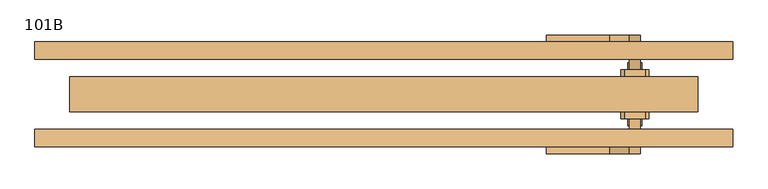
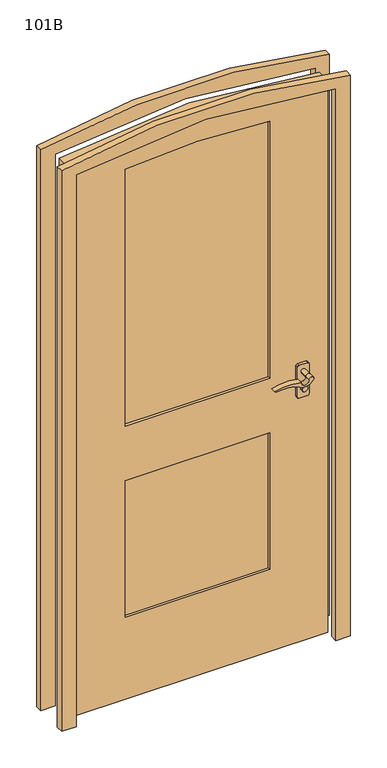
"""IFC4 building model written with IfcOpenShell, lengths in millimetres: door geometry, 单开门 : 101B."""

from ifc_helpers import new_model, si_unit, point, frame, frame_2d, origin, place, context, project, spatial, polyline, circle_curve, trimmed, segment, composite_curve, outline, extrude, source, transform, mapped, element, save
from ifc_brep_helpers import plane_surface, cylinder_surface, revolved_surface, advanced_brep


def door_101b_d0b27b87(model_context):
    return source(origin(), model_context, "Body", "SolidModel", [
        extrude(outline(composite_curve([segment(trimmed(circle_curve(frame_2d((935.0, 360.0)), 10.0), [point((935.0, 350.0))], [point((935.0, 370.0))], False, "CARTESIAN"), True, "CONTINUOUS"), segment(trimmed(circle_curve(frame_2d((935.0, 360.0)), 10.0), [point((935.0, 370.0))], [point((935.0, 350.0))], False, "CARTESIAN"), True, "CONTINUOUS")], self_intersect=False)), frame((0.0, -45.0, 0.0), z_axis=(0.0, 1.0, 0.0), x_axis=(0.0, 0.0, 1.0)), (0.0, 0.0, 1.0), 10.0),
        extrude(outline(composite_curve([segment(trimmed(circle_curve(frame_2d((935.0, 360.0)), 10.0), [point((935.0, 350.0))], [point((935.0, 370.0))], False, "CARTESIAN"), True, "CONTINUOUS"), segment(trimmed(circle_curve(frame_2d((935.0, 360.0)), 10.0), [point((935.0, 370.0))], [point((935.0, 350.0))], False, "CARTESIAN"), True, "CONTINUOUS")], self_intersect=False)), frame((0.0, 35.0, 0.0), z_axis=(0.0, 1.0, 0.0), x_axis=(0.0, 0.0, 1.0)), (0.0, 0.0, 1.0), 10.0),
        extrude(outline(composite_curve([segment(trimmed(circle_curve(frame_2d((995.0, 360.0)), 8.0000034), [point((990.3476652, 366.5081361))], [point((995.0, 351.9999966))], False, "CARTESIAN"), True, "CONTINUOUS"), segment(trimmed(circle_curve(frame_2d((995.0, 338.1440719)), 13.8559247), [point((995.0, 351.9999966))], [point((994.6945887, 324.2915135))], True, "CARTESIAN"), True, "CONTINUOUS"), segment(trimmed(circle_curve(frame_2d((820.9182734, 282.528364)), 178.7242804), [point((994.6945887, 324.2915135))], [point((992.6849677, 233.1464732))], False, "CARTESIAN"), True, "CONTINUOUS"), segment(polyline([(992.6849677, 233.1464732), (989.1494307, 236.6820064)]), True, "CONTINUOUS"), segment(trimmed(circle_curve(frame_2d((876.1214485, 264.8248803)), 116.4789514), [point((989.1494307, 236.6820064))], [point((979.2382475, 318.9938003))], True, "CARTESIAN"), True, "CONTINUOUS"), segment(trimmed(circle_curve(frame_2d((1012.2444372, 336.3324848)), 37.2832209), [point((979.2382475, 318.9938003))], [point((990.3476652, 366.5081361))], False, "CARTESIAN"), True, "CONTINUOUS")], self_intersect=False)), frame((0.0, -85.0, 0.0), z_axis=(0.0, 1.0, 0.0), x_axis=(0.0, 0.0, 1.0)), (0.0, 0.0, 1.0), 20.0),
        extrude(outline(composite_curve([segment(trimmed(circle_curve(frame_2d((995.0000265, 338.1440739)), 13.8559261), [point((995.0000097, 352.0))], [point((994.6945968, 324.2915145))], True, "CARTESIAN"), True, "CONTINUOUS"), segment(trimmed(circle_curve(frame_2d((820.9182829, 282.5283658)), 178.7242789), [point((994.6945968, 324.2915145))], [point((992.6849752, 233.1464736))], False, "CARTESIAN"), True, "CONTINUOUS"), segment(polyline([(992.6849752, 233.1464736), (989.1494413, 236.6820075)]), True, "CONTINUOUS"), segment(trimmed(circle_curve(frame_2d((876.1214595, 264.8248807)), 116.4789508), [point((989.1494413, 236.6820075))], [point((979.2382573, 318.9938016))], True, "CARTESIAN"), True, "CONTINUOUS"), segment(trimmed(circle_curve(frame_2d((1012.2444479, 336.3324871)), 37.2832219), [point((979.2382573, 318.9938016))], [point((990.3476713, 366.5081363))], False, "CARTESIAN"), True, "CONTINUOUS"), segment(trimmed(circle_curve(frame_2d((995.0, 360.0)), 8.0), [point((990.3476713, 366.5081363))], [point((995.0000097, 352.0))], False, "CARTESIAN"), True, "CONTINUOUS")], self_intersect=False)), frame((0.0, 65.0, 0.0), z_axis=(0.0, 1.0, 0.0), x_axis=(0.0, 0.0, 1.0)), (0.0, 0.0, 1.0), 20.0),
        extrude(outline(composite_curve([segment(trimmed(circle_curve(frame_2d((995.0, 360.0)), 8.0), [point((995.0, 352.0))], [point((995.0, 368.0))], False, "CARTESIAN"), True, "CONTINUOUS"), segment(trimmed(circle_curve(frame_2d((995.0, 360.0)), 8.0), [point((995.0, 368.0))], [point((995.0, 352.0))], False, "CARTESIAN"), True, "CONTINUOUS")], self_intersect=False)), frame((0.0, -65.0, 0.0), z_axis=(0.0, 1.0, 0.0), x_axis=(0.0, 0.0, 1.0)), (0.0, 0.0, 1.0), 30.0),
        extrude(outline(composite_curve([segment(trimmed(circle_curve(frame_2d((995.0, 360.0)), 8.0), [point((995.0, 352.0))], [point((995.0, 368.0))], False, "CARTESIAN"), True, "CONTINUOUS"), segment(trimmed(circle_curve(frame_2d((995.0, 360.0)), 8.0), [point((995.0, 368.0))], [point((995.0, 352.0))], False, "CARTESIAN"), True, "CONTINUOUS")], self_intersect=False)), frame((0.0, 35.0, 0.0), z_axis=(0.0, 1.0, 0.0), x_axis=(0.0, 0.0, 1.0)), (0.0, 0.0, 1.0), 30.0),
        extrude(outline(composite_curve([segment(polyline([(905.0, 380.0), (1015.0, 380.0)]), True, "CONTINUOUS"), segment(trimmed(circle_curve(frame_2d((1015.0, 375.0)), 5.0), [point((1015.0, 380.0))], [point((1020.0, 375.0))], False, "CARTESIAN"), True, "CONTINUOUS"), segment(polyline([(1020.0, 375.0), (1020.0, 345.0)]), True, "CONTINUOUS"), segment(trimmed(circle_curve(frame_2d((1015.0, 345.0)), 5.0), [point((1020.0, 345.0))], [point((1015.0, 340.0))], False, "CARTESIAN"), True, "CONTINUOUS"), segment(polyline([(1015.0, 340.0), (905.0, 340.0)]), True, "CONTINUOUS"), segment(trimmed(circle_curve(frame_2d((905.0, 345.0)), 5.0), [point((905.0, 340.0))], [point((900.0, 345.0))], False, "CARTESIAN"), True, "CONTINUOUS"), segment(polyline([(900.0, 345.0), (900.0, 375.0)]), True, "CONTINUOUS"), segment(trimmed(circle_curve(frame_2d((905.0, 375.0)), 5.0), [point((900.0, 375.0))], [point((905.0, 380.0))], False, "CARTESIAN"), True, "CONTINUOUS")], self_intersect=False)), frame((0.0, -35.0, 0.0), z_axis=(0.0, 1.0, 0.0), x_axis=(0.0, 0.0, 1.0)), (0.0, 0.0, 1.0), 10.0),
        extrude(outline(composite_curve([segment(polyline([(905.0, 380.0), (1015.0, 380.0)]), True, "CONTINUOUS"), segment(trimmed(circle_curve(frame_2d((1015.0, 375.0)), 5.0), [point((1015.0, 380.0))], [point((1020.0, 375.0))], False, "CARTESIAN"), True, "CONTINUOUS"), segment(polyline([(1020.0, 375.0), (1020.0, 345.0)]), True, "CONTINUOUS"), segment(trimmed(circle_curve(frame_2d((1015.0, 345.0)), 5.0), [point((1020.0, 345.0))], [point((1015.0, 340.0))], False, "CARTESIAN"), True, "CONTINUOUS"), segment(polyline([(1015.0, 340.0), (905.0, 340.0)]), True, "CONTINUOUS"), segment(trimmed(circle_curve(frame_2d((905.0, 345.0)), 5.0), [point((905.0, 340.0))], [point((900.0, 345.0))], False, "CARTESIAN"), True, "CONTINUOUS"), segment(polyline([(900.0, 345.0), (900.0, 375.0)]), True, "CONTINUOUS"), segment(trimmed(circle_curve(frame_2d((905.0, 375.0)), 5.0), [point((900.0, 375.0))], [point((905.0, 380.0))], False, "CARTESIAN"), True, "CONTINUOUS")], self_intersect=False)), frame((0.0, 25.0, 0.0), z_axis=(0.0, 1.0, 0.0), x_axis=(0.0, 0.0, 1.0)), (0.0, 0.0, 1.0), 10.0),
        advanced_brep(
        [(450.0, 25.0, 2020.0), (450.0, 25.0, 0.0), (-450.0, 25.0, 0.0), (-450.0, 25.0, 2020.0), (450.0, -25.0, 2020.0), (-450.0, -25.0, 2020.0), (-450.0, -25.0, 0.0), (450.0, -25.0, 0.0), (-250.0, -25.0, 800.0), (250.0, -25.0, 800.0), (250.0, -25.0, 300.0), (-250.0, -25.0, 300.0), (-250.0, -25.0, 1000.0), (-250.0, -25.0, 1940.3379704), (250.0, -25.0, 1940.3379704), (250.0, -25.0, 1000.0), (-250.0, -15.0, 800.0), (-250.0, -15.0, 300.0), (250.0, -15.0, 300.0), (250.0, -15.0, 800.0), (-250.0, -15.0, 1000.0), (250.0, -15.0, 1000.0), (250.0, -15.0, 1940.3379704), (-250.0, -15.0, 1940.3379704)],
        [
            (0, 1),
            (1, 2),
            (2, 3),
            (3, 0, circle_curve(frame((0.0, 25.0, -140.0), z_axis=(0.0, 1.0, 0.0), x_axis=(1.0, 0.0, 0.0)), 2206.377121)),
            (4, 5, circle_curve(frame((0.0, -25.0, -140.0), z_axis=(0.0, -1.0, 0.0), x_axis=(1.0, 0.0, 0.0)), 2206.377121)),
            (5, 6),
            (6, 7),
            (7, 4),
            (8, 9),
            (9, 10),
            (10, 11),
            (11, 8),
            (12, 13),
            (13, 14, circle_curve(frame((0.0, -25.0, -82.5679794), z_axis=(0.0, 1.0, 0.0), x_axis=(1.0, 0.0, 0.0)), 2038.2954844)),
            (14, 15),
            (15, 12),
            (3, 5),
            (4, 0),
            (2, 6),
            (1, 7),
            (16, 17),
            (17, 18),
            (18, 19),
            (19, 16),
            (20, 21),
            (21, 22),
            (22, 23, circle_curve(frame((0.0, -15.0, -82.5679794), z_axis=(0.0, -1.0, 0.0), x_axis=(1.0, 0.0, 0.0)), 2038.2954844)),
            (23, 20),
            (16, 8),
            (11, 17),
            (10, 18),
            (9, 19),
            (20, 12),
            (15, 21),
            (14, 22),
            (13, 23),
        ],
        [
            plane_surface(frame((2206.377121, 25.0, -140.0), z_axis=(0.0, 1.0, 0.0), x_axis=(0.0, 0.0, 1.0))),
            plane_surface(frame((2206.377121, -25.0, -140.0), z_axis=(0.0, -1.0, 0.0), x_axis=(0.0, 0.0, -1.0))),
            cylinder_surface(frame((0.0, -25.0, -140.0), z_axis=(0.0, 1.0, 0.0), x_axis=(1.0, 0.0, 0.0)), 2206.377121),
            plane_surface(frame((-450.0, 25.0, 2020.0), z_axis=(-1.0, 0.0, 0.0), x_axis=(0.0, -1.0, 0.0))),
            plane_surface(frame((-450.0, 25.0, 0.0), z_axis=(0.0, 0.0, -1.0), x_axis=(0.0, -1.0, 0.0))),
            plane_surface(frame((-250.0, -15.0, 800.0), z_axis=(0.0, -1.0, 0.0), x_axis=(0.0, 0.0, -1.0))),
            plane_surface(frame((-250.0, -15.0, 800.0), z_axis=(1.0, 0.0, 0.0), x_axis=(0.0, -1.0, 0.0))),
            plane_surface(frame((-250.0, -15.0, 300.0), z_axis=(0.0, 0.0, 1.0), x_axis=(0.0, -1.0, 0.0))),
            plane_surface(frame((250.0, -15.0, 300.0), z_axis=(-1.0, 0.0, 0.0), x_axis=(0.0, -1.0, 0.0))),
            plane_surface(frame((250.0, -15.0, 800.0), z_axis=(0.0, 0.0, -1.0), x_axis=(0.0, -1.0, 0.0))),
            plane_surface(frame((-250.0, -15.0, 1000.0), z_axis=(0.0, 0.0, 1.0), x_axis=(0.0, -1.0, 0.0))),
            plane_surface(frame((250.0, -15.0, 1000.0), z_axis=(-1.0, 0.0, 0.0), x_axis=(0.0, -1.0, 0.0))),
            revolved_surface(polyline([(2038.2954844, -15.0, -82.5679794), (2038.2954844, -25.0, -82.5679794)]), (0.0, -25.0, -82.5679794), (0.0, 1.0, 0.0)),
            plane_surface(frame((-250.0, -15.0, 1940.3379704), z_axis=(1.0, 0.0, 0.0), x_axis=(0.0, -1.0, 0.0))),
            plane_surface(frame((450.0, 25.0, 0.0), z_axis=(1.0, 0.0, 0.0), x_axis=(0.0, -1.0, 0.0))),
        ],
        [
            (0, [[1, 2, 3, 4]]),
            (1, [[5, 6, 7, 8], [9, 10, 11, 12], [13, 14, 15, 16]]),
            (2, [[17, -5, 18, -4]]),
            (3, [[19, -6, -17, -3]]),
            (4, [[20, -7, -19, -2]]),
            (5, [[21, 22, 23, 24]]),
            (5, [[25, 26, 27, 28]]),
            (6, [[29, -12, 30, -21]]),
            (7, [[-30, -11, 31, -22]]),
            (8, [[-31, -10, 32, -23]]),
            (9, [[-32, -9, -29, -24]]),
            (10, [[33, -16, 34, -25]]),
            (11, [[-34, -15, 35, -26]]),
            (12, [[-35, -14, 36, -27]]),
            (13, [[-36, -13, -33, -28]]),
            (14, [[-18, -8, -20, -1]]),
        ],
    ),
        extrude(outline(composite_curve([segment(trimmed(circle_curve(frame_2d((-140.0, 0.0)), 2206.377121), [point((2020.0, -450.0))], [point((2020.0, 450.0))], True, "CARTESIAN"), True, "CONTINUOUS"), segment(polyline([(2020.0, 450.0), (0.0, 450.0), (0.0, 500.0), (2053.0800259, 500.0)]), True, "CONTINUOUS"), segment(trimmed(circle_curve(frame_2d((-140.0, 0.0)), 2249.3554632), [point((2053.0800259, 500.0))], [point((2053.0800259, -500.0))], False, "CARTESIAN"), True, "CONTINUOUS"), segment(polyline([(2053.0800259, -500.0), (0.0, -500.0), (0.0, -450.0), (2020.0, -450.0)]), True, "CONTINUOUS")], self_intersect=False)), frame((0.0, -75.0, 0.0), z_axis=(0.0, 1.0, 0.0), x_axis=(0.0, 0.0, 1.0)), (0.0, 0.0, 1.0), 25.0),
        extrude(outline(composite_curve([segment(polyline([(2053.0800259, -500.0), (0.0, -500.0), (0.0, -450.0), (2020.0, -450.0)]), True, "CONTINUOUS"), segment(trimmed(circle_curve(frame_2d((-140.0, 0.0)), 2206.377121), [point((2020.0, -450.0))], [point((2020.0, 450.0))], True, "CARTESIAN"), True, "CONTINUOUS"), segment(polyline([(2020.0, 450.0), (0.0, 450.0), (0.0, 500.0), (2053.0800259, 500.0)]), True, "CONTINUOUS"), segment(trimmed(circle_curve(frame_2d((-140.0, 0.0)), 2249.3554632), [point((2053.0800259, 500.0))], [point((2053.0800259, -500.0))], False, "CARTESIAN"), True, "CONTINUOUS")], self_intersect=False)), frame((0.0, 50.0, 0.0), z_axis=(0.0, 1.0, 0.0), x_axis=(0.0, 0.0, 1.0)), (0.0, 0.0, 1.0), 25.0),
    ])


if __name__ == "__main__":
    model = new_model("IFC4")
    model_context = context("Model", 3, world=origin())
    ifc_project = project(units=[si_unit("LENGTHUNIT", "METRE", prefix="MILLI")], contexts=[model_context])
    site = spatial("IfcSite", under=ifc_project)
    building = spatial("IfcBuilding", under=site)
    placement = place(None, origin())
    door_101b_shape = door_101b_d0b27b87(model_context)
    element("IfcDoor", 1, ObjectType="单开门 : 101B", at=placement, inside=building, context=model_context, shape_type="MappedRepresentation", body=[
        mapped(door_101b_shape, transform((0.0, 0.0, 0.0), x_axis=(1.0, 0.0, 0.0), y_axis=(0.0, 1.0, 0.0), z_axis=(0.0, 0.0, 1.0))),
    ])
    save(model, "model.ifc")
